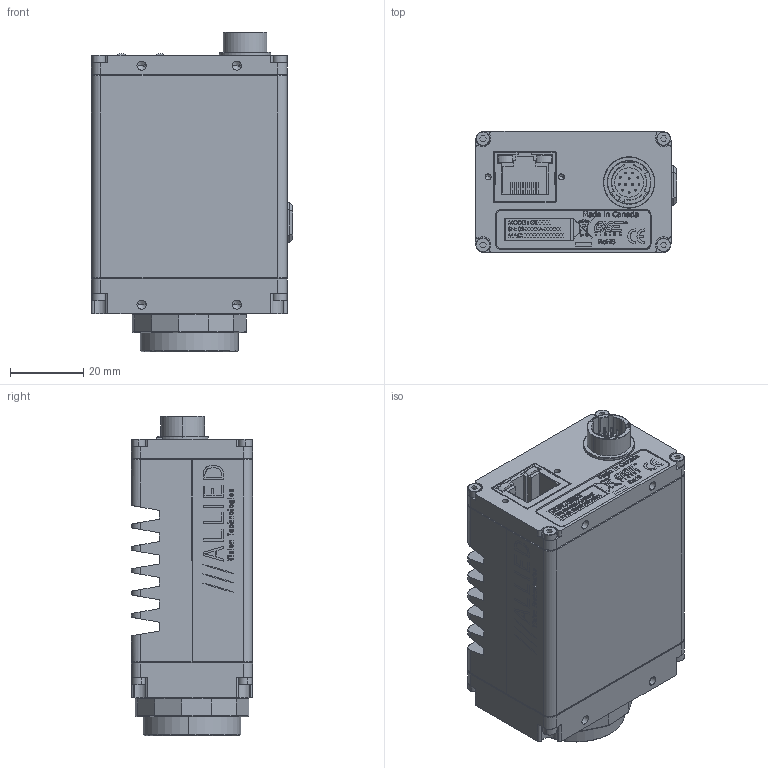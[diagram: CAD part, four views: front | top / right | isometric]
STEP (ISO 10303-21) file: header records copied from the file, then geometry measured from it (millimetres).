
FILE_DESCRIPTION (( 'STEP AP214' ), '1' );
FILE_NAME ('GT2000M CAMERA ASSY.STEP', '2013-08-01T18:17:10', ( '' ), ( '' ), 'SwSTEP 2.0', 'SolidWorks 2013', '' );
FILE_SCHEMA (( 'AUTOMOTIVE_DESIGN' ));
Length unit declared in the file: millimetre
Products named in the file (23): 110157A-GT CCD GASKET SF; 260034-HIROSE HR10A-10R-12PB WASHER; 260034-HIROSE HR10A-10R-12PB; GT2000M CAMERA ASSY; 200130B-GT CONTROL SLOW; CONN_KOBICONN_163-157J-E; 740144A-GT SERIES LABEL; CONN_AMPHENOL_RJHSE-5481; LABEL PRINTOUT; 110003AC-CV CMOUNT RING; GT TOP COVER_110159A-GT TOP COVER SHORT; GT BODY ASSY_100193A-GT BODY ASSY SLOW; CMOSIS CMV2000 WINDOW; 100191A-GT BACK ASSY; CMOSIS CMV2000 BODY; 260034-HIROSE HR10A-10R-12PB NUT; 220196-CMOSIS CMV2000-2E5M1PP; GT BOT COVER_110158A-GT BOT COVER SHORT; 110153A-GT BACK PLATE; 140061-SCREW SKT CAP M2x8 SS; 110154A-GT FRONT PLATE SF; 110031A-B EC-CCD LOCKING RING; GT2000 FRONT ASSY_100218A-GT2000M FRONT ASSY
Assembly tree (29 placements, depth 4):
  GT2000M CAMERA ASSY
    LABEL PRINTOUT
    140061-SCREW SKT CAP M2x8 SS  x4
    GT2000 FRONT ASSY_100218A-GT2000M FRONT ASSY
      110154A-GT FRONT PLATE SF
      110157A-GT CCD GASKET SF
      110003AC-CV CMOUNT RING
      110031A-B EC-CCD LOCKING RING
      220196-CMOSIS CMV2000-2E5M1PP
        CMOSIS CMV2000 WINDOW
        CMOSIS CMV2000 BODY
    GT BODY ASSY_100193A-GT BODY ASSY SLOW
      GT TOP COVER_110159A-GT TOP COVER SHORT
      140061-SCREW SKT CAP M2x8 SS  x4
      GT BOT COVER_110158A-GT BOT COVER SHORT
      200130B-GT CONTROL SLOW
        CONN_AMPHENOL_RJHSE-5481
        CONN_KOBICONN_163-157J-E
      100191A-GT BACK ASSY
        260034-HIROSE HR10A-10R-12PB
        110153A-GT BACK PLATE
        260034-HIROSE HR10A-10R-12PB WASHER
        260034-HIROSE HR10A-10R-12PB NUT
    740144A-GT SERIES LABEL
Bounding box: 54.84 x 33.02 x 87.12 mm (x, y, z)
Volume: 62912.5 mm3; surface area: 51855.1 mm2
Topology: 41 solids, 41 shells, 4104 faces, 10450 edges, 6796 vertices
Faces by surface type: plane 2289, cylinder 930, bspline 641, cone 244
Entity records: 187645 total; most frequent: CARTESIAN_POINT 49444, ORIENTED_EDGE 20108, DIRECTION 17515, EDGE_CURVE 10054, LINE 6813, VECTOR 6813, VERTEX_POINT 6614, AXIS2_PLACEMENT_3D 5351
